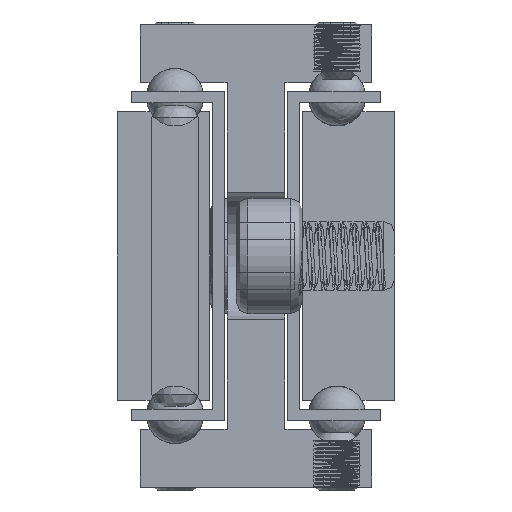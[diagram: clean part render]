
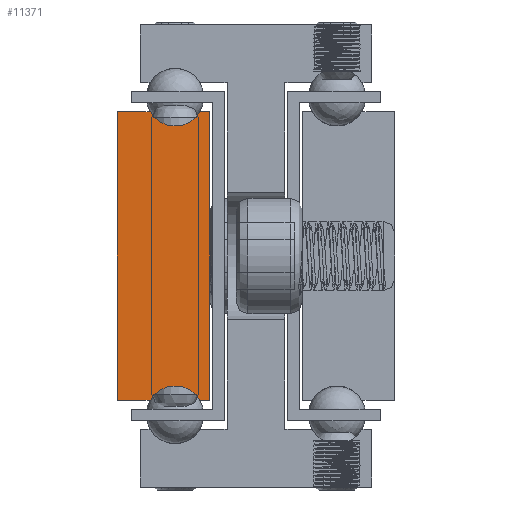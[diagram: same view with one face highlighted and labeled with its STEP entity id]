
A CAD part, front view. The second image highlights one B-rep face of the part: STEP entity #11371.
In plain terms, the highlighted planar face has unit normal (0, -1, 0).
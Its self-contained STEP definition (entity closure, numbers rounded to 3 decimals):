
#598=LINE('',#16082,#1672);
#601=LINE('',#16088,#1675);
#605=LINE('',#16100,#1679);
#608=LINE('',#16106,#1682);
#611=LINE('',#16112,#1685);
#615=LINE('',#16122,#1689);
#1672=VECTOR('',#13146,1.);
#1675=VECTOR('',#13151,1.);
#1679=VECTOR('',#13163,1.);
#1682=VECTOR('',#13168,1.);
#1685=VECTOR('',#13173,1.);
#1689=VECTOR('',#13185,1.);
#2751=PLANE('',#12203);
#3477=FACE_OUTER_BOUND('',#4197,.T.);
#4197=EDGE_LOOP('',(#8216,#8217,#8218,#8219,#8220,#8221,#8222,#8223));
#5145=CIRCLE('',#12194,2.5);
#5147=CIRCLE('',#12200,2.5);
#5432=VERTEX_POINT('',#16079);
#5433=VERTEX_POINT('',#16081);
#5435=VERTEX_POINT('',#16087);
#5437=VERTEX_POINT('',#16093);
#5439=VERTEX_POINT('',#16099);
#5441=VERTEX_POINT('',#16105);
#5443=VERTEX_POINT('',#16111);
#5445=VERTEX_POINT('',#16117);
#6614=EDGE_CURVE('',#5433,#5432,#598,.T.);
#6617=EDGE_CURVE('',#5435,#5433,#601,.T.);
#6620=EDGE_CURVE('',#5437,#5435,#5145,.T.);
#6623=EDGE_CURVE('',#5439,#5437,#605,.T.);
#6626=EDGE_CURVE('',#5441,#5439,#608,.T.);
#6629=EDGE_CURVE('',#5443,#5441,#611,.T.);
#6632=EDGE_CURVE('',#5445,#5443,#5147,.T.);
#6635=EDGE_CURVE('',#5432,#5445,#615,.T.);
#8216=ORIENTED_EDGE('',*,*,#6635,.T.);
#8217=ORIENTED_EDGE('',*,*,#6632,.T.);
#8218=ORIENTED_EDGE('',*,*,#6629,.T.);
#8219=ORIENTED_EDGE('',*,*,#6626,.T.);
#8220=ORIENTED_EDGE('',*,*,#6623,.T.);
#8221=ORIENTED_EDGE('',*,*,#6620,.T.);
#8222=ORIENTED_EDGE('',*,*,#6617,.T.);
#8223=ORIENTED_EDGE('',*,*,#6614,.T.);
#11371=ADVANCED_FACE('',(#3477),#2751,.T.);
#12194=AXIS2_PLACEMENT_3D('',#16094,#13157,#13158);
#12200=AXIS2_PLACEMENT_3D('',#16118,#13179,#13180);
#12203=AXIS2_PLACEMENT_3D('',#16124,#13188,#13189);
#13146=DIRECTION('',(0.,0.,-1.));
#13151=DIRECTION('',(-1.,0.,0.));
#13157=DIRECTION('center_axis',(0.,1.,0.));
#13158=DIRECTION('ref_axis',(-0.866,0.,-0.5));
#13163=DIRECTION('',(-1.,0.,0.));
#13168=DIRECTION('',(0.,0.,1.));
#13173=DIRECTION('',(1.,0.,0.));
#13179=DIRECTION('center_axis',(0.,1.,0.));
#13180=DIRECTION('ref_axis',(0.866,0.,0.5));
#13185=DIRECTION('',(1.,0.,0.));
#13188=DIRECTION('center_axis',(0.,-1.,0.));
#13189=DIRECTION('ref_axis',(1.,0.,0.));
#16079=CARTESIAN_POINT('',(1976.241,1565.626,437.5));
#16081=CARTESIAN_POINT('',(1976.241,1565.626,462.5));
#16082=CARTESIAN_POINT('',(1976.241,1565.626,437.5));
#16087=CARTESIAN_POINT('',(1979.076,1565.626,462.5));
#16088=CARTESIAN_POINT('',(1976.241,1565.626,462.5));
#16093=CARTESIAN_POINT('',(1983.406,1565.626,462.5));
#16094=CARTESIAN_POINT('Origin',(1981.241,1565.626,463.75));
#16099=CARTESIAN_POINT('',(1984.241,1565.626,462.5));
#16100=CARTESIAN_POINT('',(1983.406,1565.626,462.5));
#16105=CARTESIAN_POINT('',(1984.241,1565.626,437.5));
#16106=CARTESIAN_POINT('',(1984.241,1565.626,462.5));
#16111=CARTESIAN_POINT('',(1983.406,1565.626,437.5));
#16112=CARTESIAN_POINT('',(1984.241,1565.626,437.5));
#16117=CARTESIAN_POINT('',(1979.076,1565.626,437.5));
#16118=CARTESIAN_POINT('Origin',(1981.241,1565.626,436.25));
#16122=CARTESIAN_POINT('',(1979.076,1565.626,437.5));
#16124=CARTESIAN_POINT('Origin',(1980.229,1565.626,450.));
